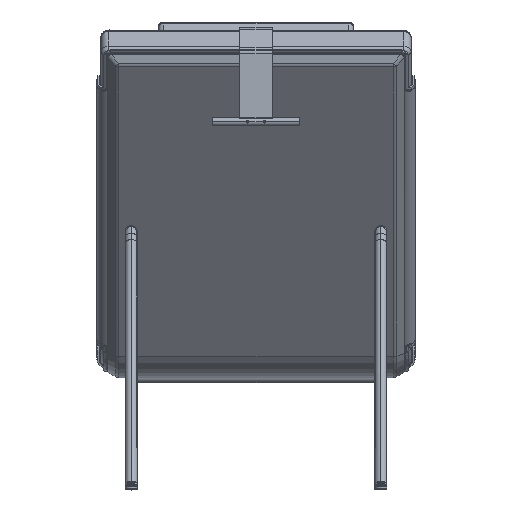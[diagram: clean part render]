
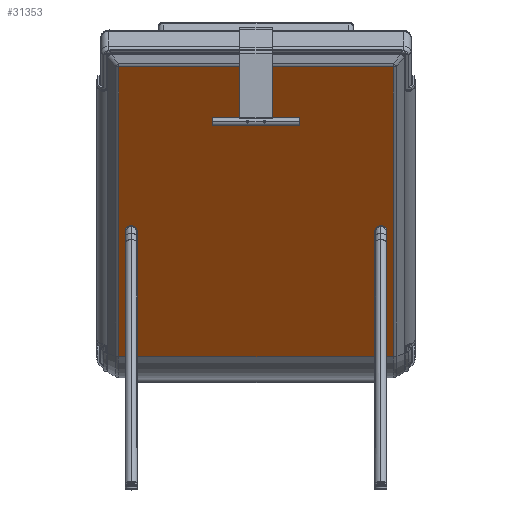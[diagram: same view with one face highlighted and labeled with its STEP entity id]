
A CAD part, top view. The second image highlights one B-rep face of the part: STEP entity #31353.
In plain terms, the highlighted planar face has unit normal (0, -0.629, 0.777).
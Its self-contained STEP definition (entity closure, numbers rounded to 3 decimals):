
#1413 = DIRECTION ( 'NONE',  ( -1., 0., 0. ) ) ;
#2094 = CARTESIAN_POINT ( 'NONE',  ( -285.845, 270.824, 1194.726 ) ) ;
#2095 = CARTESIAN_POINT ( 'NONE',  ( -285.845, 873.622, 1682.862 ) ) ;
#2565 = VERTEX_POINT ( 'NONE', #2095 ) ;
#4008 = LINE ( 'NONE', #41668, #34659 ) ;
#5739 = EDGE_CURVE ( 'NONE', #2565, #51108, #4008, .T. ) ;
#7701 = LINE ( 'NONE', #45980, #11971 ) ;
#8722 = DIRECTION ( 'NONE',  ( 0., -0.777, -0.629 ) ) ;
#11762 = PLANE ( 'NONE',  #58622 ) ;
#11971 = VECTOR ( 'NONE', #26270, 1000. ) ;
#13008 = CARTESIAN_POINT ( 'NONE',  ( 0., 892.394, 1698.063 ) ) ;
#15589 = LINE ( 'NONE', #24373, #43347 ) ;
#18127 = ORIENTED_EDGE ( 'NONE', *, *, #18268, .F. ) ;
#18268 = EDGE_CURVE ( 'NONE', #55928, #51108, #7701, .T. ) ;
#21500 = DIRECTION ( 'NONE',  ( 0., 0.629, -0.777 ) ) ;
#24373 = CARTESIAN_POINT ( 'NONE',  ( -290., 873.622, 1682.862 ) ) ;
#26270 = DIRECTION ( 'NONE',  ( -1., 0., 0. ) ) ;
#27949 = CARTESIAN_POINT ( 'NONE',  ( 285.845, 876.851, 1685.477 ) ) ;
#29825 = VECTOR ( 'NONE', #32330, 1000. ) ;
#31353 = ADVANCED_FACE ( 'NONE', ( #55978 ), #11762, .F. ) ;
#32137 = DIRECTION ( 'NONE',  ( 0., 0.777, 0.629 ) ) ;
#32330 = DIRECTION ( 'NONE',  ( 0., 0.777, 0.629 ) ) ;
#32761 = EDGE_LOOP ( 'NONE', ( #18127, #37680, #54703, #59107 ) ) ;
#34522 = EDGE_CURVE ( 'NONE', #55928, #43286, #47026, .T. ) ;
#34659 = VECTOR ( 'NONE', #8722, 1000. ) ;
#37680 = ORIENTED_EDGE ( 'NONE', *, *, #34522, .T. ) ;
#38786 = CARTESIAN_POINT ( 'NONE',  ( 285.845, 270.824, 1194.726 ) ) ;
#41668 = CARTESIAN_POINT ( 'NONE',  ( -285.845, 270.824, 1194.726 ) ) ;
#43286 = VERTEX_POINT ( 'NONE', #58471 ) ;
#43347 = VECTOR ( 'NONE', #1413, 1000. ) ;
#44661 = EDGE_CURVE ( 'NONE', #43286, #2565, #15589, .T. ) ;
#45980 = CARTESIAN_POINT ( 'NONE',  ( 0., 270.824, 1194.726 ) ) ;
#47026 = LINE ( 'NONE', #27949, #29825 ) ;
#51108 = VERTEX_POINT ( 'NONE', #2094 ) ;
#54703 = ORIENTED_EDGE ( 'NONE', *, *, #44661, .T. ) ;
#55928 = VERTEX_POINT ( 'NONE', #38786 ) ;
#55978 = FACE_OUTER_BOUND ( 'NONE', #32761, .T. ) ;
#58471 = CARTESIAN_POINT ( 'NONE',  ( 285.845, 873.622, 1682.862 ) ) ;
#58622 = AXIS2_PLACEMENT_3D ( 'NONE', #13008, #21500, #32137 ) ;
#59107 = ORIENTED_EDGE ( 'NONE', *, *, #5739, .T. ) ;
